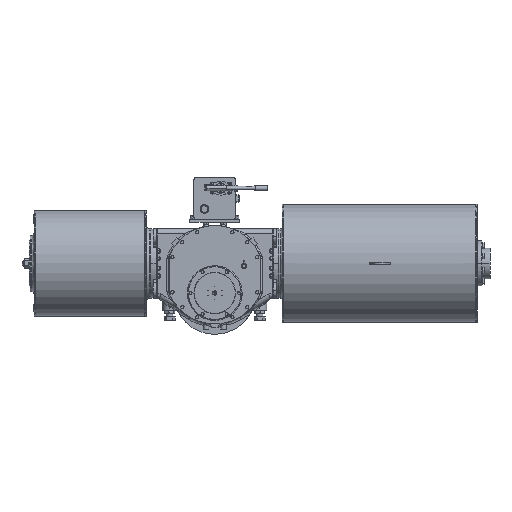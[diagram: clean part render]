
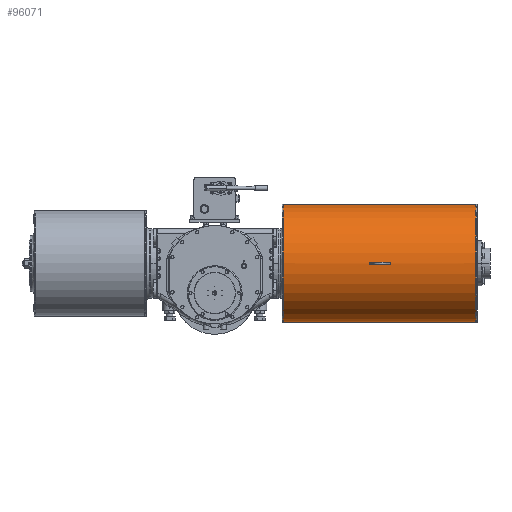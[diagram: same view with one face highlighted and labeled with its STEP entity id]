
A CAD part, top view. The second image highlights one B-rep face of the part: STEP entity #96071.
In plain terms, the highlighted cylindrical face has radius 340 mm (diameter 680 mm), a partial arc.
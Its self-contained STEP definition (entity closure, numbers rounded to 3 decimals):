
#1761 = EDGE_LOOP ( 'NONE', ( #86528, #63834, #70867, #70120 ) ) ;
#1853 = LINE ( 'NONE', #27090, #6507 ) ;
#3481 = EDGE_CURVE ( 'NONE', #33882, #97785, #68082, .T. ) ;
#4170 = CARTESIAN_POINT ( 'NONE',  ( 892., 171., 138. ) ) ;
#4787 = DIRECTION ( 'NONE',  ( 1., 0., 0. ) ) ;
#5280 = CARTESIAN_POINT ( 'NONE',  ( 1012., 171., 138. ) ) ;
#5480 = ORIENTED_EDGE ( 'NONE', *, *, #84790, .T. ) ;
#6507 = VECTOR ( 'NONE', #67990, 1000. ) ;
#7346 = DIRECTION ( 'NONE',  ( 0., -1., 0. ) ) ;
#7529 = CIRCLE ( 'NONE', #26402, 340. ) ;
#8869 = CIRCLE ( 'NONE', #67061, 340. ) ;
#9601 = ORIENTED_EDGE ( 'NONE', *, *, #3481, .T. ) ;
#12257 = DIRECTION ( 'NONE',  ( -1., 0., 0. ) ) ;
#13384 = CARTESIAN_POINT ( 'NONE',  ( 1012., 171., 138. ) ) ;
#13608 = CARTESIAN_POINT ( 'NONE',  ( 1508.115, 171., 138. ) ) ;
#14244 = CARTESIAN_POINT ( 'NONE',  ( 1502., 166., 477.963 ) ) ;
#14769 = DIRECTION ( 'NONE',  ( -1., 0., 0. ) ) ;
#14984 = ORIENTED_EDGE ( 'NONE', *, *, #37219, .T. ) ;
#15790 = VECTOR ( 'NONE', #55162, 1000. ) ;
#18029 = EDGE_CURVE ( 'NONE', #49568, #50526, #96604, .T. ) ;
#18062 = ORIENTED_EDGE ( 'NONE', *, *, #93280, .F. ) ;
#20011 = CARTESIAN_POINT ( 'NONE',  ( 892., 171., 478. ) ) ;
#20198 = DIRECTION ( 'NONE',  ( -1., 0., 0. ) ) ;
#20625 = EDGE_CURVE ( 'NONE', #34544, #94352, #57519, .T. ) ;
#21704 = CARTESIAN_POINT ( 'NONE',  ( 1508.115, -169., 138. ) ) ;
#21722 = CYLINDRICAL_SURFACE ( 'NONE', #95897, 340. ) ;
#22363 = CARTESIAN_POINT ( 'NONE',  ( 1502., -169., 138. ) ) ;
#22788 = FACE_OUTER_BOUND ( 'NONE', #1761, .T. ) ;
#23297 = EDGE_CURVE ( 'NONE', #50526, #43894, #7529, .T. ) ;
#25078 = ORIENTED_EDGE ( 'NONE', *, *, #23297, .T. ) ;
#26402 = AXIS2_PLACEMENT_3D ( 'NONE', #54597, #20198, #85869 ) ;
#27090 = CARTESIAN_POINT ( 'NONE',  ( 1502., 176., 477.963 ) ) ;
#28723 = CARTESIAN_POINT ( 'NONE',  ( 1502., 171., 138. ) ) ;
#29778 = DIRECTION ( 'NONE',  ( -1., 0., 0. ) ) ;
#31014 = CARTESIAN_POINT ( 'NONE',  ( 395.885, 171., 138. ) ) ;
#31224 = CARTESIAN_POINT ( 'NONE',  ( 1012., 166., 477.963 ) ) ;
#32694 = AXIS2_PLACEMENT_3D ( 'NONE', #5280, #75952, #63375 ) ;
#33882 = VERTEX_POINT ( 'NONE', #92623 ) ;
#34544 = VERTEX_POINT ( 'NONE', #42814 ) ;
#36913 = AXIS2_PLACEMENT_3D ( 'NONE', #31014, #88603, #7346 ) ;
#37219 = EDGE_CURVE ( 'NONE', #43894, #86705, #46166, .T. ) ;
#38374 = DIRECTION ( 'NONE',  ( 0., -1., 0. ) ) ;
#39398 = DIRECTION ( 'NONE',  ( -1., 0., 0. ) ) ;
#42814 = CARTESIAN_POINT ( 'NONE',  ( 395.885, 511., 138. ) ) ;
#43894 = VERTEX_POINT ( 'NONE', #20011 ) ;
#43923 = CARTESIAN_POINT ( 'NONE',  ( 1508.115, 511., 138. ) ) ;
#46166 = CIRCLE ( 'NONE', #53080, 340. ) ;
#47840 = EDGE_CURVE ( 'NONE', #56479, #34544, #64505, .T. ) ;
#49568 = VERTEX_POINT ( 'NONE', #31224 ) ;
#50526 = VERTEX_POINT ( 'NONE', #88041 ) ;
#50905 = CARTESIAN_POINT ( 'NONE',  ( 395.885, -169., 138. ) ) ;
#53080 = AXIS2_PLACEMENT_3D ( 'NONE', #4170, #12257, #60137 ) ;
#53859 = CARTESIAN_POINT ( 'NONE',  ( 892., 176., 477.963 ) ) ;
#54243 = VERTEX_POINT ( 'NONE', #21704 ) ;
#54456 = VECTOR ( 'NONE', #90332, 1000. ) ;
#54597 = CARTESIAN_POINT ( 'NONE',  ( 892., 171., 138. ) ) ;
#55162 = DIRECTION ( 'NONE',  ( -1., 0., 0. ) ) ;
#56479 = VERTEX_POINT ( 'NONE', #43923 ) ;
#56766 = CIRCLE ( 'NONE', #32694, 340. ) ;
#57519 = CIRCLE ( 'NONE', #36913, 340. ) ;
#59024 = ORIENTED_EDGE ( 'NONE', *, *, #18029, .T. ) ;
#60137 = DIRECTION ( 'NONE',  ( 0., 1., 0. ) ) ;
#63375 = DIRECTION ( 'NONE',  ( 0., 0., 1. ) ) ;
#63788 = LINE ( 'NONE', #22363, #15790 ) ;
#63834 = ORIENTED_EDGE ( 'NONE', *, *, #47840, .T. ) ;
#64505 = LINE ( 'NONE', #66089, #54456 ) ;
#66089 = CARTESIAN_POINT ( 'NONE',  ( 1502., 511., 138. ) ) ;
#67061 = AXIS2_PLACEMENT_3D ( 'NONE', #13608, #39398, #72789 ) ;
#67893 = EDGE_CURVE ( 'NONE', #54243, #94352, #63788, .T. ) ;
#67990 = DIRECTION ( 'NONE',  ( -1., 0., 0. ) ) ;
#68082 = CIRCLE ( 'NONE', #85294, 340. ) ;
#70120 = ORIENTED_EDGE ( 'NONE', *, *, #67893, .F. ) ;
#70867 = ORIENTED_EDGE ( 'NONE', *, *, #20625, .T. ) ;
#72789 = DIRECTION ( 'NONE',  ( 0., -1., 0. ) ) ;
#75952 = DIRECTION ( 'NONE',  ( 1., 0., 0. ) ) ;
#77959 = DIRECTION ( 'NONE',  ( 0., 0., 1. ) ) ;
#78775 = FACE_BOUND ( 'NONE', #95776, .T. ) ;
#84525 = EDGE_CURVE ( 'NONE', #54243, #56479, #8869, .T. ) ;
#84790 = EDGE_CURVE ( 'NONE', #97785, #49568, #56766, .T. ) ;
#85294 = AXIS2_PLACEMENT_3D ( 'NONE', #13384, #4787, #77959 ) ;
#85869 = DIRECTION ( 'NONE',  ( 0., 1., 0. ) ) ;
#86528 = ORIENTED_EDGE ( 'NONE', *, *, #84525, .T. ) ;
#86705 = VERTEX_POINT ( 'NONE', #53859 ) ;
#88041 = CARTESIAN_POINT ( 'NONE',  ( 892., 166., 477.963 ) ) ;
#88603 = DIRECTION ( 'NONE',  ( 1., 0., 0. ) ) ;
#90332 = DIRECTION ( 'NONE',  ( -1., 0., 0. ) ) ;
#92623 = CARTESIAN_POINT ( 'NONE',  ( 1012., 176., 477.963 ) ) ;
#93280 = EDGE_CURVE ( 'NONE', #33882, #86705, #1853, .T. ) ;
#94352 = VERTEX_POINT ( 'NONE', #50905 ) ;
#95776 = EDGE_LOOP ( 'NONE', ( #9601, #5480, #59024, #25078, #14984, #18062 ) ) ;
#95897 = AXIS2_PLACEMENT_3D ( 'NONE', #28723, #29778, #38374 ) ;
#96071 = ADVANCED_FACE ( 'NONE', ( #78775, #22788 ), #21722, .T. ) ;
#96453 = VECTOR ( 'NONE', #14769, 1000. ) ;
#96604 = LINE ( 'NONE', #14244, #96453 ) ;
#97785 = VERTEX_POINT ( 'NONE', #106005 ) ;
#106005 = CARTESIAN_POINT ( 'NONE',  ( 1012., 171., 478. ) ) ;
